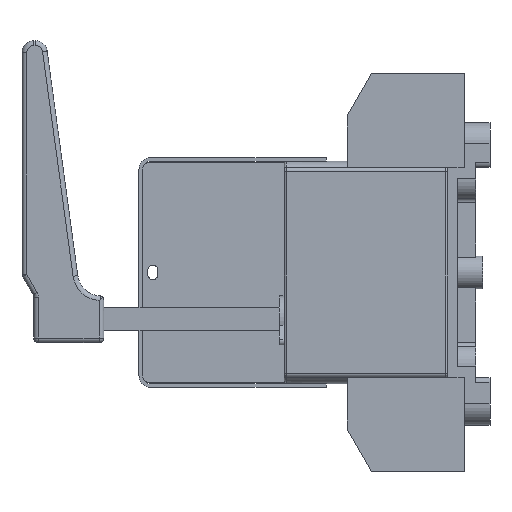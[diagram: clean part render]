
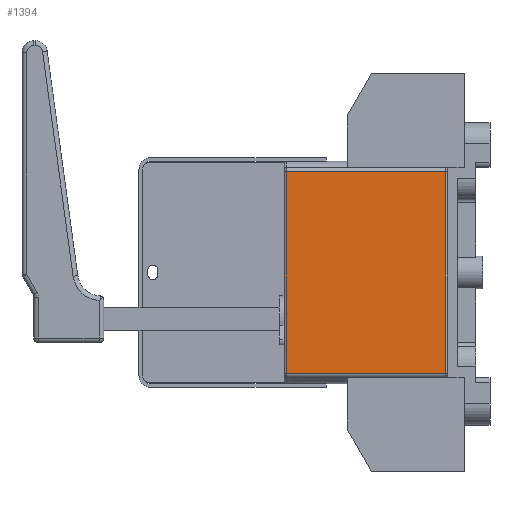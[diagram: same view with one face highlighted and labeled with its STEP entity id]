
A CAD part, left-side view. The second image highlights one B-rep face of the part: STEP entity #1394.
In plain terms, the highlighted planar face has unit normal (-1, 0, 0).
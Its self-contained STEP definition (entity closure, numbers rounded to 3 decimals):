
#458=FACE_OUTER_BOUND('',#4132,.T.);
#1394=ADVANCED_FACE('',(#458),#2383,.F.);
#2383=PLANE('',#19638);
#4132=EDGE_LOOP('',(#5685,#5686,#5687,#5688));
#5685=ORIENTED_EDGE('',*,*,#13080,.F.);
#5686=ORIENTED_EDGE('',*,*,#13081,.T.);
#5687=ORIENTED_EDGE('',*,*,#13077,.T.);
#5688=ORIENTED_EDGE('',*,*,#13082,.T.);
#11215=VERTEX_POINT('',#27702);
#11216=VERTEX_POINT('',#27703);
#11217=VERTEX_POINT('',#27708);
#11218=VERTEX_POINT('',#27709);
#13077=EDGE_CURVE('',#11215,#11216,#15762,.T.);
#13080=EDGE_CURVE('',#11217,#11218,#15763,.T.);
#13081=EDGE_CURVE('',#11217,#11215,#15764,.T.);
#13082=EDGE_CURVE('',#11216,#11218,#15765,.T.);
#15762=LINE('',#27701,#17737);
#15763=LINE('',#27707,#17738);
#15764=LINE('',#27710,#17739);
#15765=LINE('',#27711,#17740);
#17737=VECTOR('',#21785,1.);
#17738=VECTOR('',#21792,1.);
#17739=VECTOR('',#21793,1.);
#17740=VECTOR('',#21794,1.);
#19638=AXIS2_PLACEMENT_3D('',#27712,#21795,#21796);
#21785=DIRECTION('',(0.,-1.,0.));
#21792=DIRECTION('',(0.,-1.,0.));
#21793=DIRECTION('',(0.,0.,-1.));
#21794=DIRECTION('',(0.,0.,1.));
#21795=DIRECTION('',(1.,0.,0.));
#21796=DIRECTION('',(0.,0.,-1.));
#27701=CARTESIAN_POINT('',(-41.,35.,-43.));
#27702=CARTESIAN_POINT('',(-41.,69.,-43.));
#27703=CARTESIAN_POINT('',(-41.,1.,-43.));
#27707=CARTESIAN_POINT('',(-41.,35.,43.));
#27708=CARTESIAN_POINT('',(-41.,69.,43.));
#27709=CARTESIAN_POINT('',(-41.,1.,43.));
#27710=CARTESIAN_POINT('',(-41.,69.,-43.));
#27711=CARTESIAN_POINT('',(-41.,1.,-43.));
#27712=CARTESIAN_POINT('',(-41.,35.,-43.));
